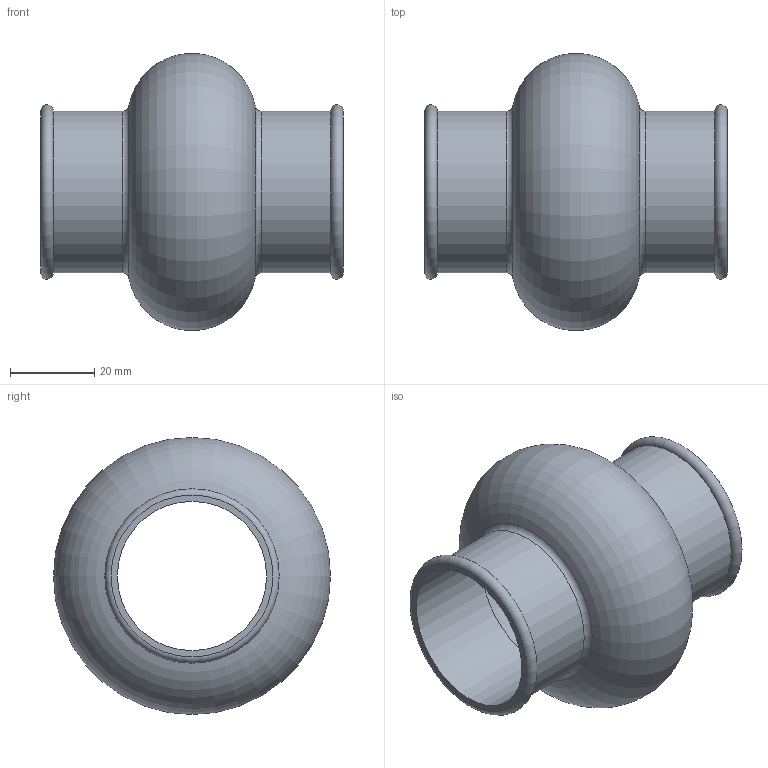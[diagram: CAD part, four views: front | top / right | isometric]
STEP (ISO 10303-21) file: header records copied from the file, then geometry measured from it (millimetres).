
FILE_DESCRIPTION(/* description */ (''),/* implementation_level */ '2;1');
FILE_NAME(/* name */ '\\SRV2016\Societa\Stefano\Disegni 3D\00Catalogo 3D\19Manicotti\2M_SM003600.stp',/* time_stamp */ '2021-11-24T13:48:01+01:00',/* author */ ('acquisti'),/* organization */ (''),/* preprocessor_version */ 'ST-DEVELOPER v15.6',/* originating_system */ 'Autodesk Inventor 2015',/* authorisation */ '');
FILE_SCHEMA (('AUTOMOTIVE_DESIGN { 1 0 10303 214 3 1 1 }'));
Length unit declared in the file: millimetre
Products named in the file (1): 2M_SM003600
Bounding box: 72 x 65.92 x 65.92 mm (x, y, z)
Volume: 19797 mm3; surface area: 25820 mm2
Topology: 1 solids, 1 shells, 12 faces, 22 edges, 12 vertices
Faces by surface type: torus 6, cylinder 4, plane 2
Full cylindrical faces by diameter (mm): 35.5 x2, 38.5 x2
Entity records: 272 total; most frequent: DIRECTION 50, CARTESIAN_POINT 37, AXIS2_PLACEMENT_3D 25, EDGE_LOOP 24, ORIENTED_EDGE 24, FACE_BOUND 12, FACE_OUTER_BOUND 12, CIRCLE 12
